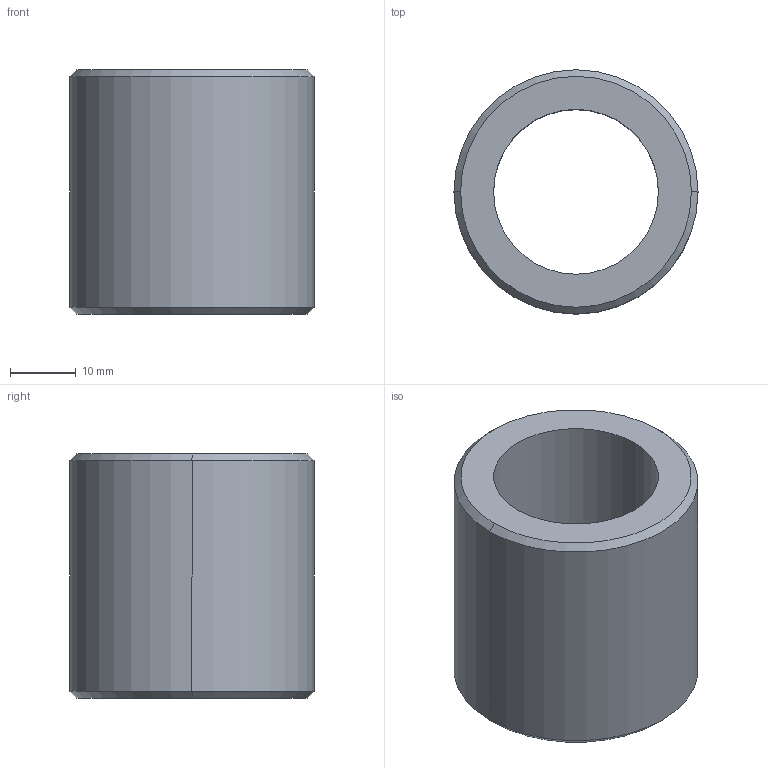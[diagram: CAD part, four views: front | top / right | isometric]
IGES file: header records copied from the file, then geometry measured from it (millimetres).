
Start section: 3D InterOp IGES (Version 21 0 1), Spatial Corp. Copyright (c) 1999-2007.
Global section: file name: DB-25.igs; native system: Spatial Corp.; preprocessor: 3D InterOp GENERIC/IGES 3.0; author: Noname; organization: Noname; date: 20220208.162820; units: millimetre
Bounding box: 37 x 37 x 37 mm (x, y, z)
Surface area: 8236.7 mm2 (no closed solid volume)
Topology: 0 solids, 0 shells, 10 faces, 40 edges, 40 vertices
Faces by surface type: revolution 8, extrusion 2
